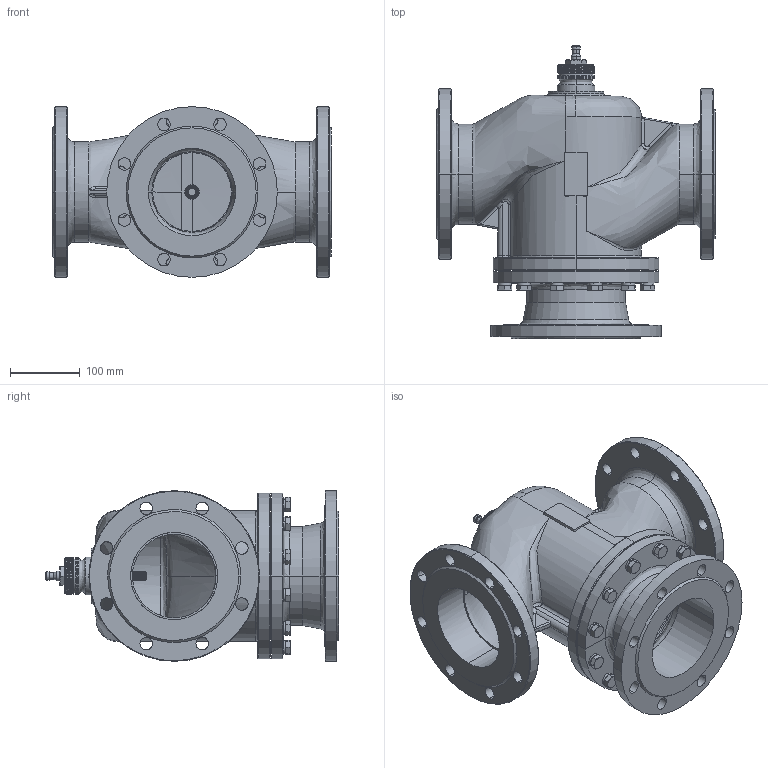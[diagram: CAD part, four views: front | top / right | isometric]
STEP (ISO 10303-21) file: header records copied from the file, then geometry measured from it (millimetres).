
FILE_DESCRIPTION (( 'STEP AP203' ), '1' );
FILE_NAME ('¡¾20260817-¸üÐÂ¡¿-3D STEP CAD model of VF-3R-[]-DN125.STEP', '2026-08-17T11:49:46', ( '' ), ( '' ), 'SwSTEP 2.0', 'SolidWorks 2015', '' );
FILE_SCHEMA (( 'CONFIG_CONTROL_DESIGN' ));
Length unit declared in the file: millimetre
Products named in the file (8): Φ14填料压紧母组件(整套).轴套结构.20220307整理_1; 125 三通下阀体-[曲面]; VFQ71.125.16; VFQ炵蹈概藷概裝窒煦朴14-M12x1.25; 12粟菜; M12X45蹟邡+12粟菜; M12X45俋鞠源蹟邡; 【20260817-更新】-3D STEP CAD model of  VF-3R-[]-DN125
Assembly tree (18 placements, depth 3):
  【20260817-更新】-3D STEP CAD model of  VF-3R-[]-DN125
    VFQ71.125.16
    Φ14填料压紧母组件(整套).轴套结构.20220307整理_1
    VFQ炵蹈概藷概裝窒煦朴14-M12x1.25
    125 三通下阀体-[曲面]
    M12X45蹟邡+12粟菜  x12
      M12X45俋鞠源蹟邡
      12粟菜
Bounding box: 400 x 421 x 245 mm (x, y, z)
Surface area: 1049696.3 mm2 (no closed solid volume)
Topology: 0 solids, 56 shells, 1049 faces, 2699 edges, 1746 vertices
Faces by surface type: cylinder 390, plane 341, cone 177, bspline 141
Entity records: 432271 total; most frequent: CARTESIAN_POINT 416486, ORIENTED_EDGE 3462, DIRECTION 2451, EDGE_CURVE 1751, VERTEX_POINT 1152, AXIS2_PLACEMENT_3D 979, EDGE_LOOP 778, B_SPLINE_CURVE_WITH_KNOTS 659
